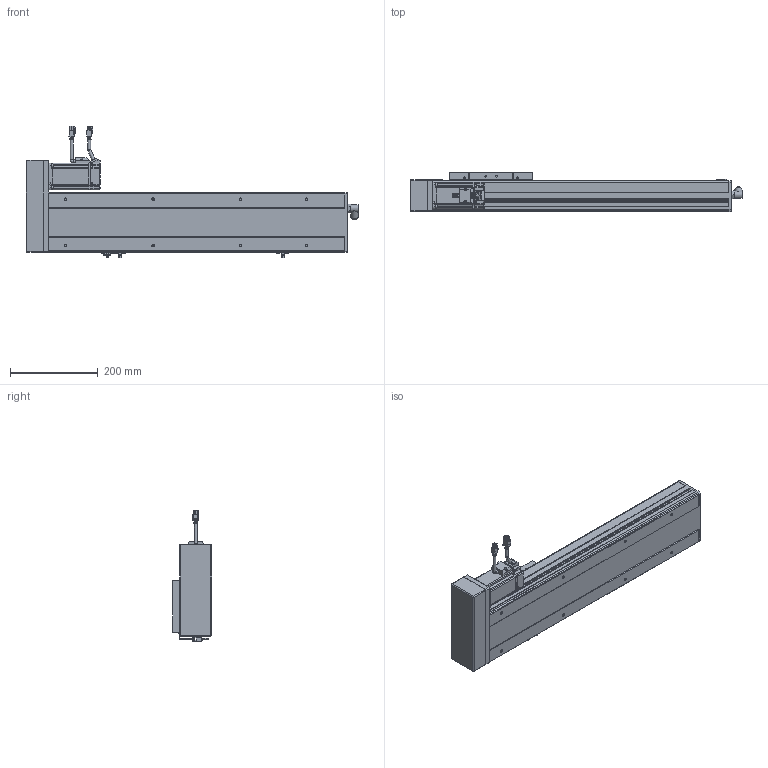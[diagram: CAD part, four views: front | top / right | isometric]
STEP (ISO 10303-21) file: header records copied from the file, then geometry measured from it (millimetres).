
FILE_DESCRIPTION(/* description */ ('STEP AP214'),/* implementation_level */ '2;1');
FILE_NAME(/* name */ 'PSC140-L05-S400-BL-P40-C1-N(0)',/* time_stamp */ '2022-06-13T03:26:46+02:00',/* author */ ('License CC BY-ND 4.0'),/* organization */ ('CADENAS'),/* preprocessor_version */ 'ST-DEVELOPER v18.102',/* originating_system */ 'PARTsolutions',/* authorisation */ ' ');
FILE_SCHEMA (('AUTOMOTIVE_DESIGN {1 0 10303 214 3 1 1}'));
Length unit declared in the file: millimetre
Products named in the file (11): PSC140-L05-S400-BL-P40-C1-N(0); P40-s2; P40-c2; P40-s1; P40-c1; P40-p1; PSC140-BL-body2; PSC140-sensor; PSC140-BL-SLIDER; PSC140-S400-BL-P40-C1_BODY1; PSC140-L05-S400-BL-P40-C1-N(0)_dummy
Assembly tree (12 placements, depth 2):
  PSC140-L05-S400-BL-P40-C1-N(0)
    P40-s2
    P40-c2
    P40-s1
    P40-c1
    P40-p1
    PSC140-BL-body2
    PSC140-sensor  x3
    PSC140-BL-SLIDER
    PSC140-S400-BL-P40-C1_BODY1
    PSC140-L05-S400-BL-P40-C1-N(0)_dummy
Bounding box: 758 x 91 x 300.88 mm (x, y, z)
Volume: 8031650.5 mm3; surface area: 514733.2 mm2
Topology: 11 solids, 11 shells, 1219 faces, 3159 edges, 2091 vertices
Faces by surface type: plane 854, cylinder 310, cone 36, torus 19
Full cylindrical faces by diameter (mm): 1 x8, 2.6 x10, 2.8 x3, 3.3 x8, 4.5 x12, 4.6 x3, 4.917 x12, 5 x4, 5.5 x8, 6 x10, 7 x10, 9 x2, 10 x1, 11 x1, 12 x1, 13.74 x1, 14 x1, 16.4 x2, 16.5 x1, 36 x1, 50 x2
Entity records: 33846 total; most frequent: CARTESIAN_POINT 5917, DIRECTION 5683, ORIENTED_EDGE 5510, EDGE_CURVE 2755, LINE 2097, VECTOR 2097, VERTEX_POINT 1912, AXIS2_PLACEMENT_3D 1793
